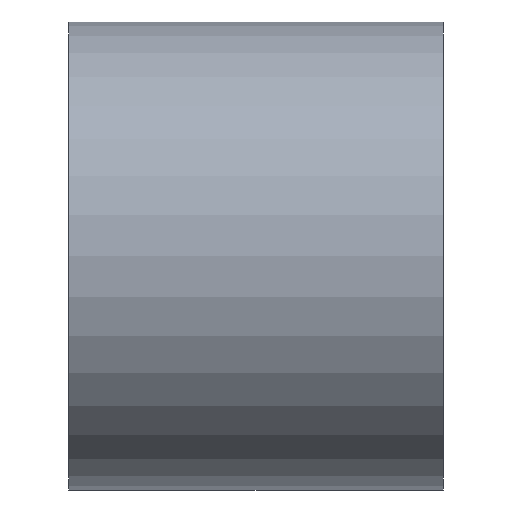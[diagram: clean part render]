
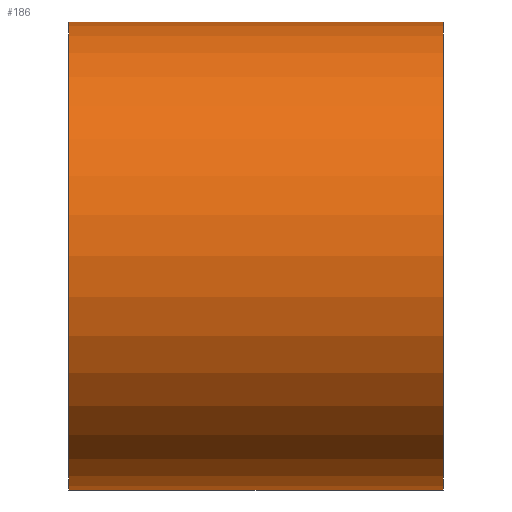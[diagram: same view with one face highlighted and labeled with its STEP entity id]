
A CAD part, front view. The second image highlights one B-rep face of the part: STEP entity #186.
In plain terms, the highlighted cylindrical face has radius 500 mm (diameter 1000 mm), a partial arc.
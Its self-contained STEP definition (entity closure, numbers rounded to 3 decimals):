
#186=ADVANCED_FACE('',(#374),#375,.T.);
#374=FACE_OUTER_BOUND('',#589,.T.);
#375=CYLINDRICAL_SURFACE('',#590,500.0);
#589=EDGE_LOOP('',(#1079,#1080,#1081,#1082));
#590=AXIS2_PLACEMENT_3D('',#1083,#1084,#1085);
#1079=ORIENTED_EDGE('',*,*,#1167,.T.);
#1080=ORIENTED_EDGE('',*,*,#1373,.F.);
#1081=ORIENTED_EDGE('',*,*,#1169,.T.);
#1082=ORIENTED_EDGE('',*,*,#1374,.F.);
#1083=CARTESIAN_POINT('',(0.0,0.0,0.0));
#1084=DIRECTION('',(1.0,0.0,0.0));
#1085=DIRECTION('',(0.0,0.0,-1.0));
#1167=EDGE_CURVE('',#1378,#1379,#1380,.T.);
#1169=EDGE_CURVE('',#1383,#1381,#1384,.T.);
#1373=EDGE_CURVE('',#1383,#1379,#1687,.T.);
#1374=EDGE_CURVE('',#1378,#1381,#1688,.T.);
#1378=VERTEX_POINT('',#1692);
#1379=VERTEX_POINT('',#1693);
#1380=LINE('',#1694,#1695);
#1381=VERTEX_POINT('',#1696);
#1383=VERTEX_POINT('',#1698);
#1384=LINE('',#1699,#1700);
#1687=CIRCLE('',#2063,500.0);
#1688=CIRCLE('',#2064,500.0);
#1692=CARTESIAN_POINT('',(-400.0,0.0,-500.0));
#1693=CARTESIAN_POINT('',(400.0,0.0,-500.0));
#1694=CARTESIAN_POINT('',(0.0,0.,-500.0));
#1695=VECTOR('',#2067,1.0);
#1696=CARTESIAN_POINT('',(-400.0,0.,500.0));
#1698=CARTESIAN_POINT('',(400.0,0.,500.0));
#1699=CARTESIAN_POINT('',(0.0,0.,500.0));
#1700=VECTOR('',#2071,1.0);
#2063=AXIS2_PLACEMENT_3D('',#2402,#2403,#2404);
#2064=AXIS2_PLACEMENT_3D('',#2405,#2406,#2407);
#2067=DIRECTION('',(1.0,0.0,0.0));
#2071=DIRECTION('',(-1.0,-0.0,-0.0));
#2402=CARTESIAN_POINT('',(400.0,0.0,0.0));
#2403=DIRECTION('',(1.0,0.0,0.0));
#2404=DIRECTION('',(0.0,0.0,-1.0));
#2405=CARTESIAN_POINT('',(-400.0,0.0,0.0));
#2406=DIRECTION('',(-1.0,0.0,0.0));
#2407=DIRECTION('',(0.0,0.0,-1.0));
